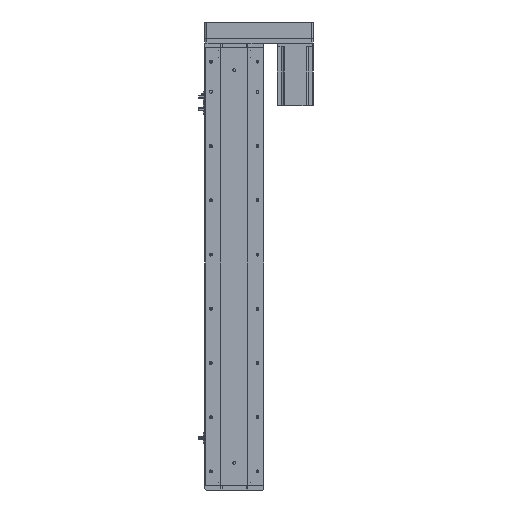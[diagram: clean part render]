
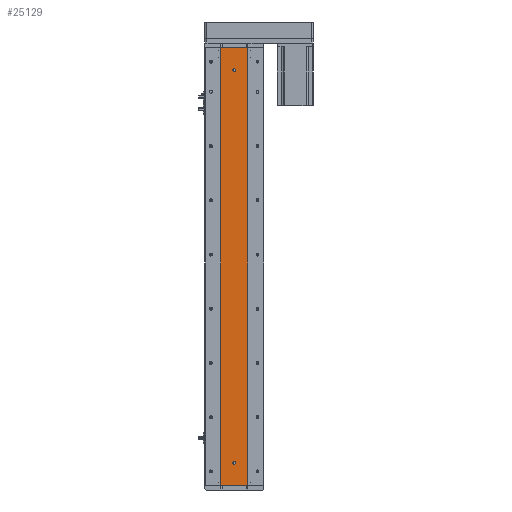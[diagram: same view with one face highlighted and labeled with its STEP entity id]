
A CAD part, left-side view. The second image highlights one B-rep face of the part: STEP entity #25129.
In plain terms, the highlighted planar face has unit normal (-1, 0, 0).
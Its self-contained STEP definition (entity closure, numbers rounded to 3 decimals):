
#120 = PLANE ( 'NONE',  #23178 ) ;
#259 = DIRECTION ( 'NONE',  ( 0., 0., -1. ) ) ;
#326 = CARTESIAN_POINT ( 'NONE',  ( -24.994, -29.785, 969. ) ) ;
#724 = VERTEX_POINT ( 'NONE', #44535 ) ;
#914 = VERTEX_POINT ( 'NONE', #8904 ) ;
#1064 = FACE_OUTER_BOUND ( 'NONE', #38378, .T. ) ;
#1321 = LINE ( 'NONE', #39497, #28994 ) ;
#3041 = VERTEX_POINT ( 'NONE', #35031 ) ;
#3583 = DIRECTION ( 'NONE',  ( -1., 0., 0. ) ) ;
#4118 = DIRECTION ( 'NONE',  ( -1., 0., 0. ) ) ;
#5068 = ORIENTED_EDGE ( 'NONE', *, *, #41583, .T. ) ;
#5192 = CARTESIAN_POINT ( 'NONE',  ( -24.994, -29.785, 0. ) ) ;
#5544 = DIRECTION ( 'NONE',  ( 0., 0., -1. ) ) ;
#5795 = DIRECTION ( 'NONE',  ( 0., -1., 0. ) ) ;
#5845 = EDGE_CURVE ( 'NONE', #35108, #24433, #19793, .T. ) ;
#6942 = EDGE_LOOP ( 'NONE', ( #37969, #26171 ) ) ;
#8904 = CARTESIAN_POINT ( 'NONE',  ( -24.994, 29.785, 0. ) ) ;
#9891 = CIRCLE ( 'NONE', #13802, 3. ) ;
#10318 = EDGE_LOOP ( 'NONE', ( #26936, #44852 ) ) ;
#10634 = FACE_BOUND ( 'NONE', #10318, .T. ) ;
#13030 = DIRECTION ( 'NONE',  ( -1., 0., 0. ) ) ;
#13245 = VECTOR ( 'NONE', #5795, 1000. ) ;
#13802 = AXIS2_PLACEMENT_3D ( 'NONE', #25754, #4118, #29396 ) ;
#15705 = ORIENTED_EDGE ( 'NONE', *, *, #26555, .F. ) ;
#16964 = EDGE_CURVE ( 'NONE', #914, #38619, #36259, .T. ) ;
#17164 = VECTOR ( 'NONE', #5544, 1000. ) ;
#17950 = DIRECTION ( 'NONE',  ( 0., 0., -1. ) ) ;
#19379 = CIRCLE ( 'NONE', #32289, 3. ) ;
#19562 = AXIS2_PLACEMENT_3D ( 'NONE', #21037, #46196, #24668 ) ;
#19793 = CIRCLE ( 'NONE', #23268, 3. ) ;
#20110 = DIRECTION ( 'NONE',  ( 0., -1., 0. ) ) ;
#20355 = CARTESIAN_POINT ( 'NONE',  ( -24.994, 29.785, 969. ) ) ;
#21037 = CARTESIAN_POINT ( 'NONE',  ( -24.994, 0., 919. ) ) ;
#21921 = DIRECTION ( 'NONE',  ( 1., 0., 0. ) ) ;
#22211 = CARTESIAN_POINT ( 'NONE',  ( -24.994, 0., 922. ) ) ;
#22797 = ORIENTED_EDGE ( 'NONE', *, *, #16964, .T. ) ;
#22904 = EDGE_CURVE ( 'NONE', #26261, #38619, #26776, .T. ) ;
#23178 = AXIS2_PLACEMENT_3D ( 'NONE', #43435, #21921, #259 ) ;
#23268 = AXIS2_PLACEMENT_3D ( 'NONE', #34594, #13030, #38241 ) ;
#24433 = VERTEX_POINT ( 'NONE', #40549 ) ;
#24668 = DIRECTION ( 'NONE',  ( 0., 0., 1. ) ) ;
#25129 = ADVANCED_FACE ( 'NONE', ( #29873, #10634, #1064 ), #120, .F. ) ;
#25220 = CARTESIAN_POINT ( 'NONE',  ( -24.994, 0., 50. ) ) ;
#25754 = CARTESIAN_POINT ( 'NONE',  ( -24.994, 0., 919. ) ) ;
#26069 = EDGE_CURVE ( 'NONE', #43748, #3041, #41486, .T. ) ;
#26171 = ORIENTED_EDGE ( 'NONE', *, *, #26263, .F. ) ;
#26261 = VERTEX_POINT ( 'NONE', #326 ) ;
#26263 = EDGE_CURVE ( 'NONE', #3041, #43748, #9891, .T. ) ;
#26555 = EDGE_CURVE ( 'NONE', #724, #26261, #41992, .T. ) ;
#26776 = LINE ( 'NONE', #27196, #17164 ) ;
#26936 = ORIENTED_EDGE ( 'NONE', *, *, #5845, .F. ) ;
#27196 = CARTESIAN_POINT ( 'NONE',  ( -24.994, -29.785, 969. ) ) ;
#28839 = DIRECTION ( 'NONE',  ( 0., 0., 1. ) ) ;
#28994 = VECTOR ( 'NONE', #17950, 1000. ) ;
#29262 = CARTESIAN_POINT ( 'NONE',  ( -24.994, 0., 53. ) ) ;
#29396 = DIRECTION ( 'NONE',  ( 0., 0., 1. ) ) ;
#29873 = FACE_BOUND ( 'NONE', #6942, .T. ) ;
#30035 = ORIENTED_EDGE ( 'NONE', *, *, #22904, .F. ) ;
#32289 = AXIS2_PLACEMENT_3D ( 'NONE', #25220, #3583, #28839 ) ;
#34594 = CARTESIAN_POINT ( 'NONE',  ( -24.994, 0., 50. ) ) ;
#35031 = CARTESIAN_POINT ( 'NONE',  ( -24.994, 0., 916. ) ) ;
#35108 = VERTEX_POINT ( 'NONE', #29262 ) ;
#36259 = LINE ( 'NONE', #45285, #45846 ) ;
#37969 = ORIENTED_EDGE ( 'NONE', *, *, #26069, .F. ) ;
#38241 = DIRECTION ( 'NONE',  ( 0., 0., 1. ) ) ;
#38378 = EDGE_LOOP ( 'NONE', ( #22797, #30035, #15705, #5068 ) ) ;
#38619 = VERTEX_POINT ( 'NONE', #5192 ) ;
#39497 = CARTESIAN_POINT ( 'NONE',  ( -24.994, 29.785, 969. ) ) ;
#40549 = CARTESIAN_POINT ( 'NONE',  ( -24.994, 0., 47. ) ) ;
#41486 = CIRCLE ( 'NONE', #19562, 3. ) ;
#41583 = EDGE_CURVE ( 'NONE', #724, #914, #1321, .T. ) ;
#41590 = EDGE_CURVE ( 'NONE', #24433, #35108, #19379, .T. ) ;
#41992 = LINE ( 'NONE', #20355, #13245 ) ;
#43435 = CARTESIAN_POINT ( 'NONE',  ( -24.994, 29.785, 969. ) ) ;
#43748 = VERTEX_POINT ( 'NONE', #22211 ) ;
#44535 = CARTESIAN_POINT ( 'NONE',  ( -24.994, 29.785, 969. ) ) ;
#44852 = ORIENTED_EDGE ( 'NONE', *, *, #41590, .F. ) ;
#45285 = CARTESIAN_POINT ( 'NONE',  ( -24.994, 29.785, 0. ) ) ;
#45846 = VECTOR ( 'NONE', #20110, 1000. ) ;
#46196 = DIRECTION ( 'NONE',  ( -1., 0., 0. ) ) ;
